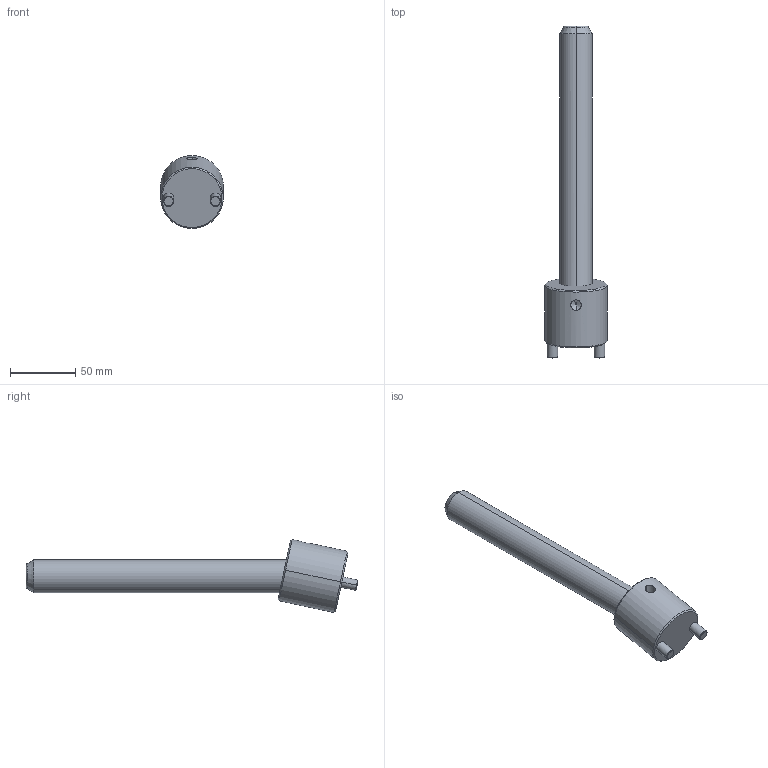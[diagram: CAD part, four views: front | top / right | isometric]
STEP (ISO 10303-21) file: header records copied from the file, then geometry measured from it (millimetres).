
FILE_DESCRIPTION(('CATIA V5 STEP Exchange'),'2;1');
FILE_NAME('C:\Users\Raffaele\Desktop\3D BOLEX\3D FILES CF BOLEX\19-INCLINED ASSEMBLY REF_CI\CI1225200.stp','2019-06-21T14:09:00+00:00',('none'),('none'),'CATIA Version 5 Release 20 GA (IN-10)','CATIA V5 STEP AP203','none');
FILE_SCHEMA(('CONFIG_CONTROL_DESIGN'));
Length unit declared in the file: millimetre
Products named in the file (1): CI1225200
Assembly tree (2 placements, depth 2):
  CI1225200
    #58
    #602
Bounding box: 48 x 254.52 x 55.89 mm (x, y, z)
Volume: 177266.6 mm3; surface area: 33296.5 mm2
Topology: 2 solids, 2 shells, 39 faces, 82 edges, 47 vertices
Faces by surface type: cone 14, cylinder 14, plane 7, torus 4
Entity records: 1536 total; most frequent: CARTESIAN_POINT 677, ORIENTED_EDGE 160, DIRECTION 145, EDGE_CURVE 80, AXIS2_PLACEMENT_3D 72, VERTEX_POINT 47, EDGE_LOOP 43, ADVANCED_FACE 39
